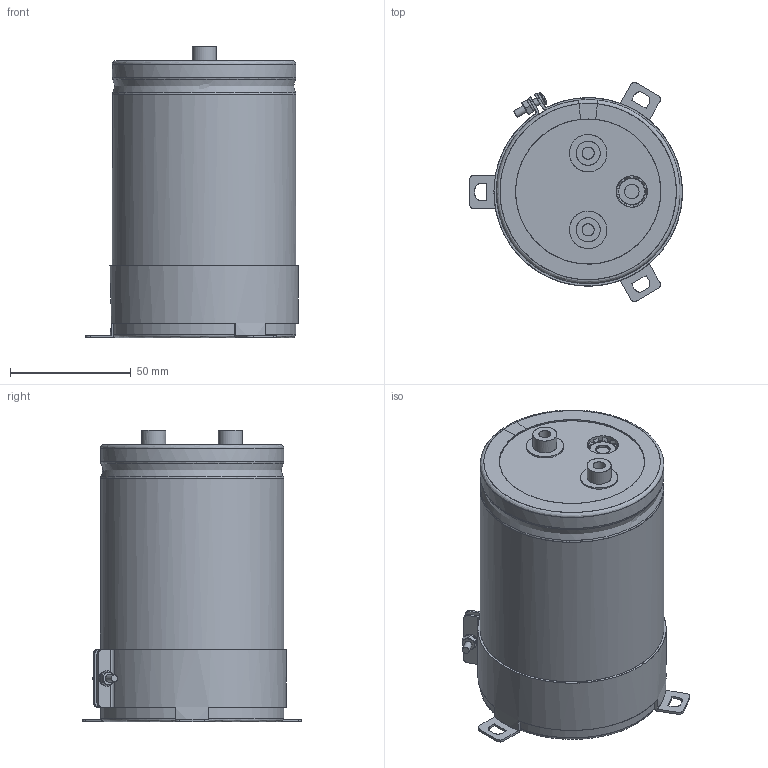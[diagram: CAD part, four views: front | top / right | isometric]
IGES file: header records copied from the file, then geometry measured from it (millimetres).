
Start section: JAMA-IS VERSION  1.0
Bounding box: 88.3 x 90.75 x 121 mm (x, y, z)
Surface area: 112866.7 mm2 (no closed solid volume)
Topology: 0 solids, 0 shells, 259 faces, 4448 edges, 4417 vertices
Faces by surface type: bspline 259
